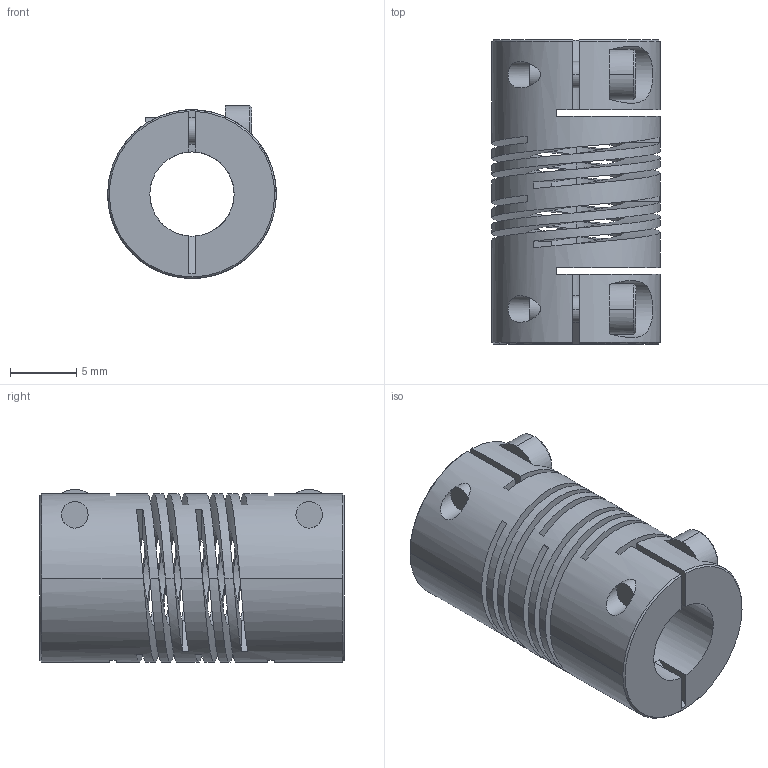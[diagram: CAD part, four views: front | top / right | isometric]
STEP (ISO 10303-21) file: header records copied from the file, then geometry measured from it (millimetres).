
FILE_DESCRIPTION((''),'2;1');
FILE_NAME('727_13','2006-12-05T',('Gary Melling'),(''),'PRO/ENGINEER BY PARAMETRIC TECHNOLOGY CORPORATION, 2006240','PRO/ENGINEER BY PARAMETRIC TECHNOLOGY CORPORATION, 2006240','');
FILE_SCHEMA(('CONFIG_CONTROL_DESIGN'));
Length unit declared in the file: millimetre
Products named in the file (1): 727_13
Bounding box: 12.7 x 22.9 x 13.01 mm (x, y, z)
Volume: 1737.1 mm3; surface area: 2798.9 mm2
Topology: 1 solids, 1 shells, 110 faces, 326 edges, 212 vertices
Faces by surface type: plane 58, cylinder 34, bspline 12, cone 6
Entity records: 5574 total; most frequent: CARTESIAN_POINT 2696, ORIENTED_EDGE 652, DIRECTION 508, EDGE_CURVE 326, VERTEX_POINT 212, VECTOR 180, LINE 180, AXIS2_PLACEMENT_3D 164
